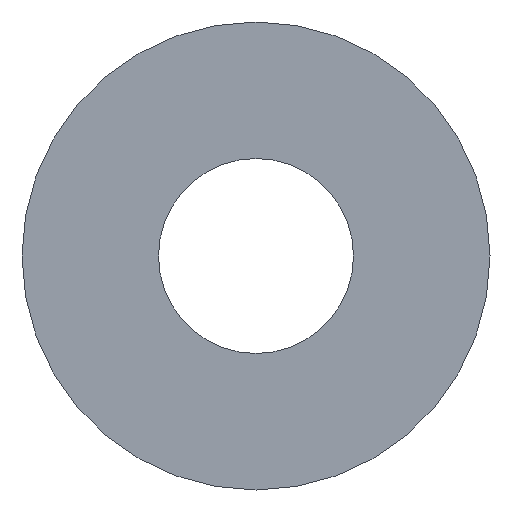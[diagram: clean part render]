
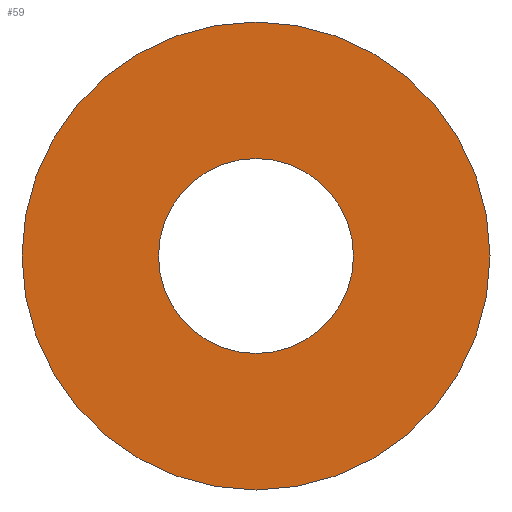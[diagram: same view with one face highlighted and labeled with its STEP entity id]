
A CAD part, front view. The second image highlights one B-rep face of the part: STEP entity #59.
In plain terms, the highlighted planar face has unit normal (0, -1, 0).
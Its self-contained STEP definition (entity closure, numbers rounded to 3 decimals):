
#3 = DIRECTION ( 'NONE',  ( 0., 0., 1. ) ) ;
#8 = PLANE ( 'NONE',  #100 ) ;
#18 = EDGE_CURVE ( 'NONE', #45, #81, #174, .T. ) ;
#22 = DIRECTION ( 'NONE',  ( 0., 1., 0. ) ) ;
#26 = AXIS2_PLACEMENT_3D ( 'NONE', #204, #96, #3 ) ;
#39 = CARTESIAN_POINT ( 'NONE',  ( 0., 0., 0. ) ) ;
#40 = DIRECTION ( 'NONE',  ( 0., 0., 1. ) ) ;
#43 = CARTESIAN_POINT ( 'NONE',  ( 0., 0., 1.25 ) ) ;
#44 = EDGE_CURVE ( 'NONE', #81, #45, #178, .T. ) ;
#45 = VERTEX_POINT ( 'NONE', #101 ) ;
#49 = ORIENTED_EDGE ( 'NONE', *, *, #18, .T. ) ;
#50 = CIRCLE ( 'NONE', #146, 3. ) ;
#57 = DIRECTION ( 'NONE',  ( 0., 0., 1. ) ) ;
#59 = ADVANCED_FACE ( 'NONE', ( #175, #82 ), #8, .F. ) ;
#63 = EDGE_LOOP ( 'NONE', ( #49, #113 ) ) ;
#78 = CIRCLE ( 'NONE', #136, 3. ) ;
#81 = VERTEX_POINT ( 'NONE', #43 ) ;
#82 = FACE_BOUND ( 'NONE', #63, .T. ) ;
#85 = DIRECTION ( 'NONE',  ( 0., 1., 0. ) ) ;
#93 = CARTESIAN_POINT ( 'NONE',  ( 0., 0., -3. ) ) ;
#96 = DIRECTION ( 'NONE',  ( 0., 1., 0. ) ) ;
#99 = ORIENTED_EDGE ( 'NONE', *, *, #206, .F. ) ;
#100 = AXIS2_PLACEMENT_3D ( 'NONE', #109, #22, #129 ) ;
#101 = CARTESIAN_POINT ( 'NONE',  ( 0., 0., -1.25 ) ) ;
#104 = DIRECTION ( 'NONE',  ( 0., 1., 0. ) ) ;
#109 = CARTESIAN_POINT ( 'NONE',  ( 0., 0., 0. ) ) ;
#113 = ORIENTED_EDGE ( 'NONE', *, *, #44, .T. ) ;
#129 = DIRECTION ( 'NONE',  ( 0., 0., 1. ) ) ;
#136 = AXIS2_PLACEMENT_3D ( 'NONE', #184, #85, #194 ) ;
#143 = DIRECTION ( 'NONE',  ( 0., 1., 0. ) ) ;
#146 = AXIS2_PLACEMENT_3D ( 'NONE', #39, #143, #57 ) ;
#154 = VERTEX_POINT ( 'NONE', #93 ) ;
#158 = CARTESIAN_POINT ( 'NONE',  ( 0., 0., 3. ) ) ;
#173 = CARTESIAN_POINT ( 'NONE',  ( 0., 0., 0. ) ) ;
#174 = CIRCLE ( 'NONE', #26, 1.25 ) ;
#175 = FACE_OUTER_BOUND ( 'NONE', #195, .T. ) ;
#178 = CIRCLE ( 'NONE', #205, 1.25 ) ;
#183 = VERTEX_POINT ( 'NONE', #158 ) ;
#184 = CARTESIAN_POINT ( 'NONE',  ( 0., 0., 0. ) ) ;
#194 = DIRECTION ( 'NONE',  ( 0., 0., 1. ) ) ;
#195 = EDGE_LOOP ( 'NONE', ( #209, #99 ) ) ;
#204 = CARTESIAN_POINT ( 'NONE',  ( 0., 0., 0. ) ) ;
#205 = AXIS2_PLACEMENT_3D ( 'NONE', #173, #104, #40 ) ;
#206 = EDGE_CURVE ( 'NONE', #183, #154, #50, .T. ) ;
#209 = ORIENTED_EDGE ( 'NONE', *, *, #213, .F. ) ;
#213 = EDGE_CURVE ( 'NONE', #154, #183, #78, .T. ) ;
